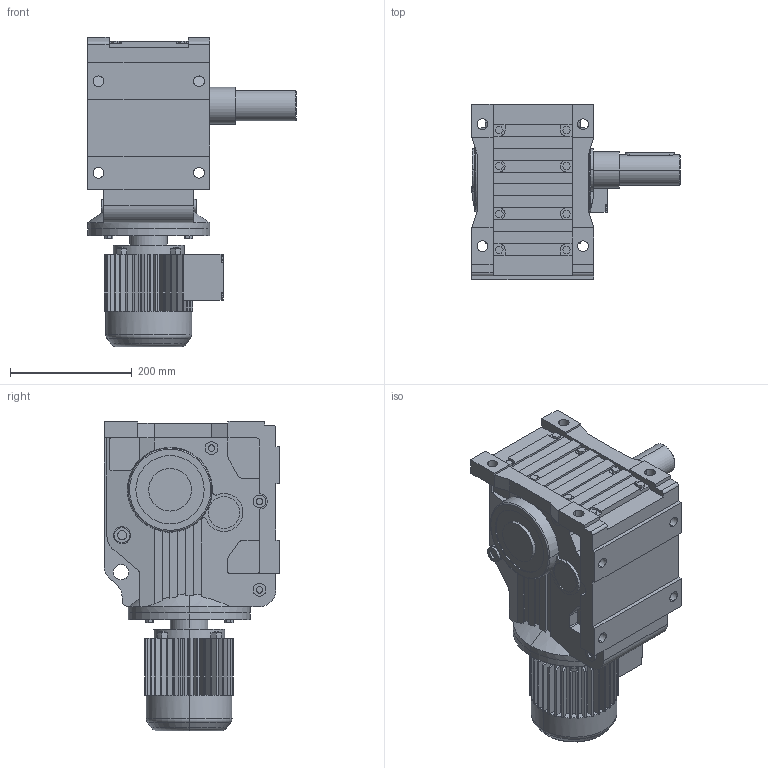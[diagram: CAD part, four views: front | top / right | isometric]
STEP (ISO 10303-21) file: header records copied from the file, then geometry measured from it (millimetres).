
FILE_DESCRIPTION(('Open CASCADE Model'),'2;1');
FILE_NAME('Open CASCADE Shape Model','2018-09-08T13:12:30',('Author'),( 'Open CASCADE'),'Open CASCADE STEP processor 6.3','Open CASCADE 6.3' ,'Unknown');
FILE_SCHEMA(('AUTOMOTIVE_DESIGN_CC2 { 1 2 10303 214 -1 1 5 4 }'));
Length unit declared in the file: millimetre
Products named in the file (4): 31_K77DT71D-A; K37‵157_77.step; 萇儂_200-DT71D-193-257-145-122.step; す瑩妗陑粣K_77.step
Assembly tree (3 placements, depth 2):
  31_K77DT71D-A
    K37‵157_77.step
    萇儂_200-DT71D-193-257-145-122.step
    す瑩妗陑粣K_77.step
Bounding box: 342 x 288 x 507 mm (x, y, z)
Volume: 16015786.4 mm3; surface area: 841175.8 mm2
Topology: 3 solids, 3 shells, 841 faces, 2214 edges, 1436 vertices
Faces by surface type: plane 585, cylinder 231, cone 17, torus 8
Entity records: 57886 total; most frequent: CARTESIAN_POINT 15793, DIRECTION 7261, ORIENTED_EDGE 4424, PCURVE 4424, DEFINITIONAL_REPRESENTATION 4424, LINE 3951, VECTOR 3951, EDGE_CURVE 2212
